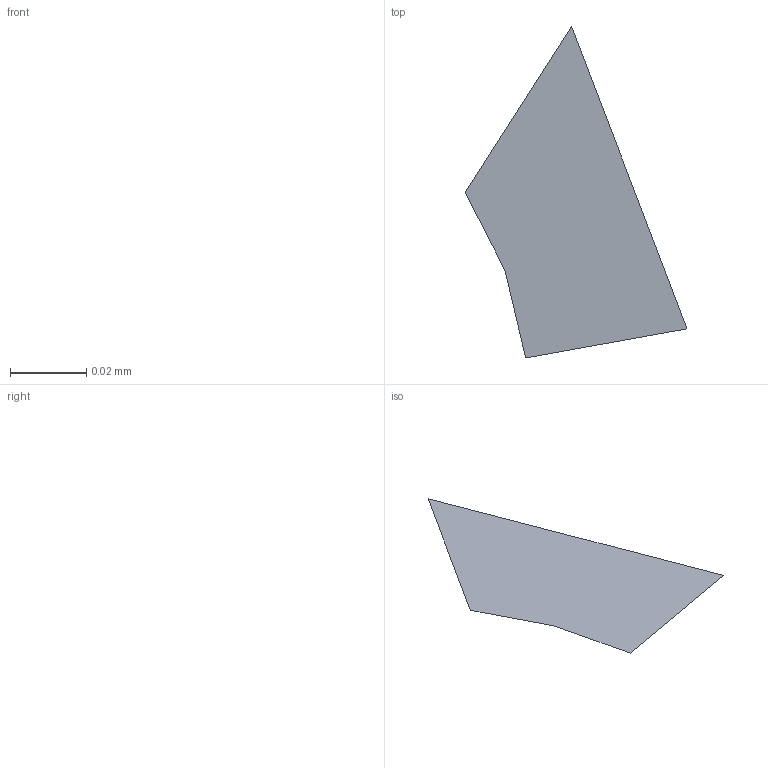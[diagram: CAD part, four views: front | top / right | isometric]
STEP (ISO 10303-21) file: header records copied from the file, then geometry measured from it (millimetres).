
FILE_DESCRIPTION(/* description */ ('STEP AP242 Edition 2','CAx-IF Rec.Pracs.---Representation and Presentation of Product Manufacturing Information (PMI)---4.0---2014-10-13','CAx-IF Rec.Pracs.---3D Tessellated Geometry---0.4---2014-09-14','2;1','CAx-IF Rec.Pracs.---User Defined Attributes---1.5---2016-08-15'),/* implementation_level */ '2;1');
FILE_NAME(/* name */ 'Assembly 1 - Part 83',/* time_stamp */ '2026-03-29T21:14:58Z',/* author */ (''),/* organization */ (''),/* preprocessor_version */ 'ST-DEVELOPER v20',/* originating_system */ 'ONSHAPE BY PTC INC, 1.212',/* authorisation */ ' ');
FILE_SCHEMA (('AP242_MANAGED_MODEL_BASED_3D_ENGINEERING_MIM_LF { 1 0 10303 442 3 1 4 }'));
Length unit declared in the file: metre
Products named in the file (1): Part 83
Bounding box: 0.06 x 0.09 x 0 mm (x, y, z)
Surface area: 0 mm2 (no closed solid volume)
Topology: 0 solids, 1 shells, 1 faces, 0 edges, 0 vertices
Faces by surface type: other 1
Entity records: 31 total; most frequent: DIRECTION 2, SHAPE_REPRESENTATION_RELATIONSHIP 1, TESSELLATED_SHAPE_REPRESENTATION 1, STYLED_ITEM 1, PRESENTATION_STYLE_ASSIGNMENT 1, SURFACE_STYLE_USAGE 1, SURFACE_SIDE_STYLE 1, SURFACE_STYLE_FILL_AREA 1
